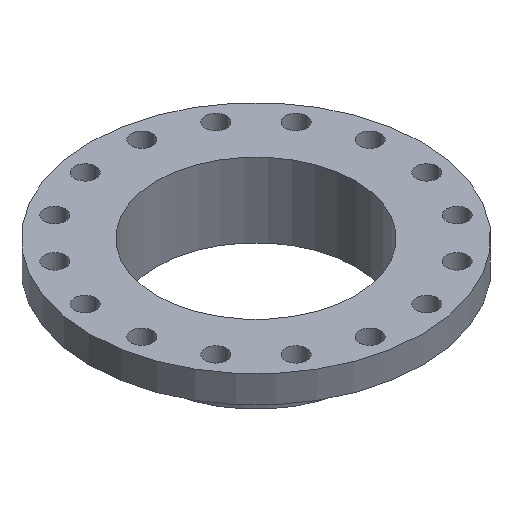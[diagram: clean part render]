
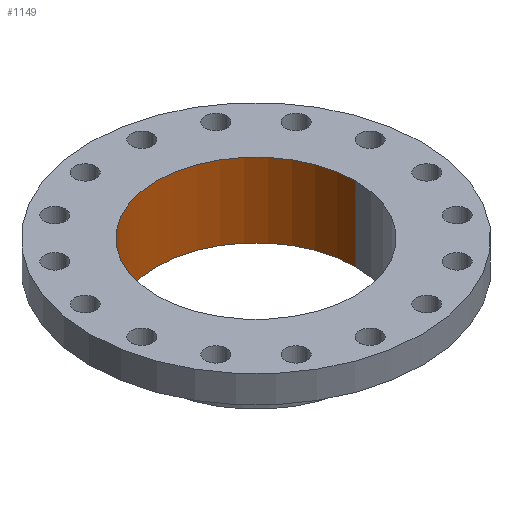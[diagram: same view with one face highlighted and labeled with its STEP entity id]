
A CAD part, isometric view. The second image highlights one B-rep face of the part: STEP entity #1149.
In plain terms, the highlighted cylindrical face has radius 153.95 mm (diameter 307.9 mm), a partial arc.
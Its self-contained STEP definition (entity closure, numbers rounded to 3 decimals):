
#151 = CARTESIAN_POINT ( 'NONE',  ( -153.95, 0., 0. ) ) ;
#232 = CIRCLE ( 'NONE', #1589, 153.95 ) ;
#297 = AXIS2_PLACEMENT_3D ( 'NONE', #1492, #1491, #1490 ) ;
#308 = DIRECTION ( 'NONE',  ( -1., 0., 0. ) ) ;
#309 = DIRECTION ( 'NONE',  ( 0., 0., -1. ) ) ;
#310 = CARTESIAN_POINT ( 'NONE',  ( 0., 0., -115. ) ) ;
#489 = CIRCLE ( 'NONE', #493, 153.95 ) ;
#493 = AXIS2_PLACEMENT_3D ( 'NONE', #310, #309, #308 ) ;
#501 = EDGE_CURVE ( 'NONE', #1378, #1161, #489, .T. ) ;
#558 = EDGE_LOOP ( 'NONE', ( #1029, #1030, #1031, #1033 ) ) ;
#724 = VECTOR ( 'NONE', #1130, 1000. ) ;
#793 = VERTEX_POINT ( 'NONE', #151 ) ;
#867 = DIRECTION ( 'NONE',  ( 0., 0., -1. ) ) ;
#879 = CARTESIAN_POINT ( 'NONE',  ( 153.95, 0., -125. ) ) ;
#880 = LINE ( 'NONE', #879, #1172 ) ;
#1029 = ORIENTED_EDGE ( 'NONE', *, *, #1551, .F. ) ;
#1030 = ORIENTED_EDGE ( 'NONE', *, *, #1497, .F. ) ;
#1031 = ORIENTED_EDGE ( 'NONE', *, *, #1474, .T. ) ;
#1033 = ORIENTED_EDGE ( 'NONE', *, *, #501, .T. ) ;
#1063 = DIRECTION ( 'NONE',  ( -1., 0., 0. ) ) ;
#1064 = DIRECTION ( 'NONE',  ( 0., 0., -1. ) ) ;
#1065 = CARTESIAN_POINT ( 'NONE',  ( 0., 0., 0. ) ) ;
#1072 = VERTEX_POINT ( 'NONE', #1596 ) ;
#1130 = DIRECTION ( 'NONE',  ( 0., 0., -1. ) ) ;
#1131 = CARTESIAN_POINT ( 'NONE',  ( -153.95, 0., -125. ) ) ;
#1132 = LINE ( 'NONE', #1131, #724 ) ;
#1149 = ADVANCED_FACE ( 'NONE', ( #1502 ), #1501, .F. ) ;
#1161 = VERTEX_POINT ( 'NONE', #1480 ) ;
#1172 = VECTOR ( 'NONE', #867, 1000. ) ;
#1276 = CARTESIAN_POINT ( 'NONE',  ( -153.95, 0., -115. ) ) ;
#1378 = VERTEX_POINT ( 'NONE', #1276 ) ;
#1474 = EDGE_CURVE ( 'NONE', #793, #1378, #1132, .T. ) ;
#1480 = CARTESIAN_POINT ( 'NONE',  ( 153.95, 0., -115. ) ) ;
#1490 = DIRECTION ( 'NONE',  ( -1., 0., 0. ) ) ;
#1491 = DIRECTION ( 'NONE',  ( 0., 0., -1. ) ) ;
#1492 = CARTESIAN_POINT ( 'NONE',  ( 0., 0., -125. ) ) ;
#1497 = EDGE_CURVE ( 'NONE', #793, #1072, #232, .T. ) ;
#1501 = CYLINDRICAL_SURFACE ( 'NONE', #297, 153.95 ) ;
#1502 = FACE_OUTER_BOUND ( 'NONE', #558, .T. ) ;
#1551 = EDGE_CURVE ( 'NONE', #1072, #1161, #880, .T. ) ;
#1589 = AXIS2_PLACEMENT_3D ( 'NONE', #1065, #1064, #1063 ) ;
#1596 = CARTESIAN_POINT ( 'NONE',  ( 153.95, 0., 0. ) ) ;
